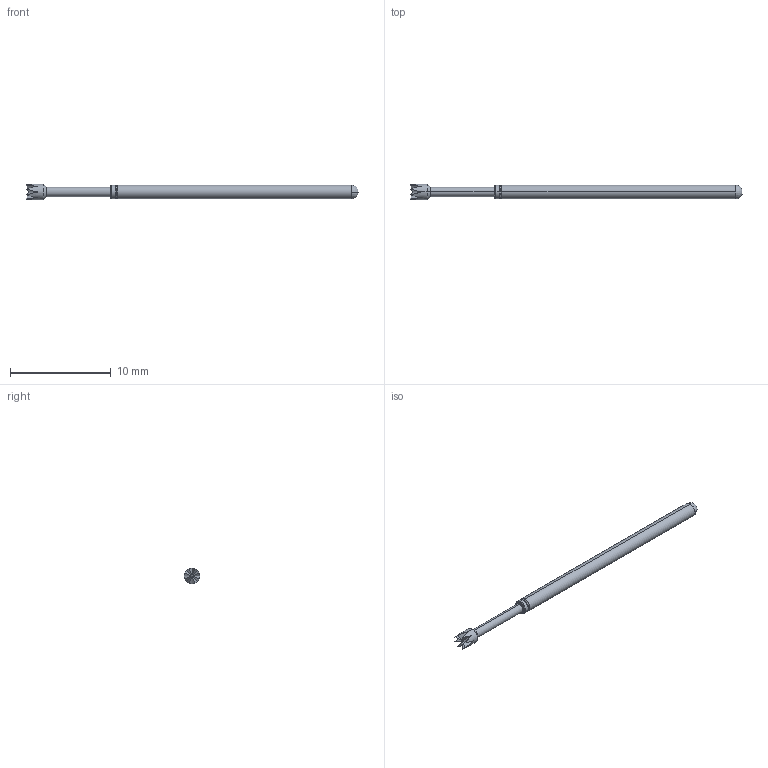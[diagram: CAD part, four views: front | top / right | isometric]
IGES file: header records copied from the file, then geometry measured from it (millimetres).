
Start section: SolidWorks IGES file using analytic representation for surfaces
Global section: file name: Z:\probe solid model mockups\Solidworks models\POGO-25 IGS files\POGO-25Z.IGS; native system: SolidWorks 2006 by SolidWorks Corporation; preprocessor: SolidWorks 2006 by SolidWorks Corporation; author: tsakatani; date: 071214.093845; units: inch
Bounding box: 33.02 x 1.52 x 1.52 mm (x, y, z)
Surface area: 139.8 mm2 (no closed solid volume)
Topology: 0 solids, 0 shells, 38 faces, 210 edges, 210 vertices
Faces by surface type: bspline 22, revolution 16
